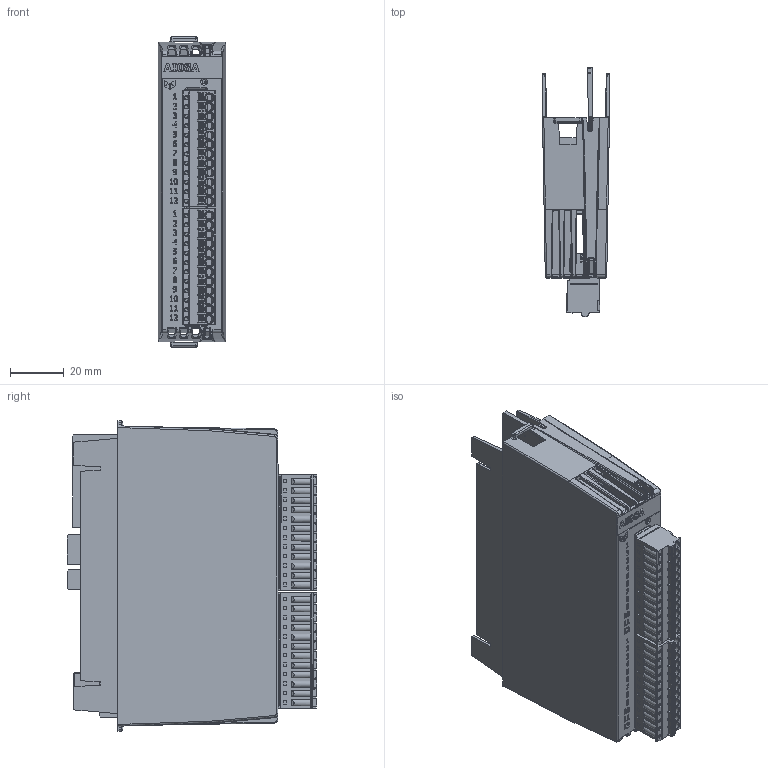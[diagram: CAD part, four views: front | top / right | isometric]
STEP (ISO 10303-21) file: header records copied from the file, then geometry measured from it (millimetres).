
FILE_DESCRIPTION(/* description */ (''),/* implementation_level */ '2;1');
FILE_NAME(/* name */ 'C:\Users\Public\Documents\Autodesk\Inventor 2023\AI08A_Simplified.stp',/* time_stamp */ '2024-10-15T21:19:47+02:00',/* author */ ('shoma'),/* organization */ (''),/* preprocessor_version */ 'ST-DEVELOPER v19',/* originating_system */ 'Autodesk Inventor 2023',/* authorisation */ '');
FILE_SCHEMA (('AUTOMOTIVE_DESIGN { 1 0 10303 214 3 1 1 }'));
Products named in the file (1): AI08A_Simplified
Bounding box: 24.95 x 92.98 x 115.5 mm (x, y, z)
Volume: 132666.4 mm3; surface area: 67327.7 mm2
Topology: 1 solids, 49 shells, 6375 faces, 16878 edges, 10805 vertices
Faces by surface type: plane 4212, cylinder 1335, bspline 564, cone 217, torus 25, sphere 22
Full cylindrical faces by diameter (mm): 0.296 x2, 0.3 x116, 0.457 x2, 1.17 x24, 1.2 x24, 1.25 x24, 1.3 x24, 1.6 x24, 2.5 x1, 3.1 x24
Entity records: 217761 total; most frequent: CARTESIAN_POINT 53944, ORIENTED_EDGE 33702, DIRECTION 30704, EDGE_CURVE 16851, LINE 12420, VECTOR 12420, VERTEX_POINT 10805, AXIS2_PLACEMENT_3D 9142
